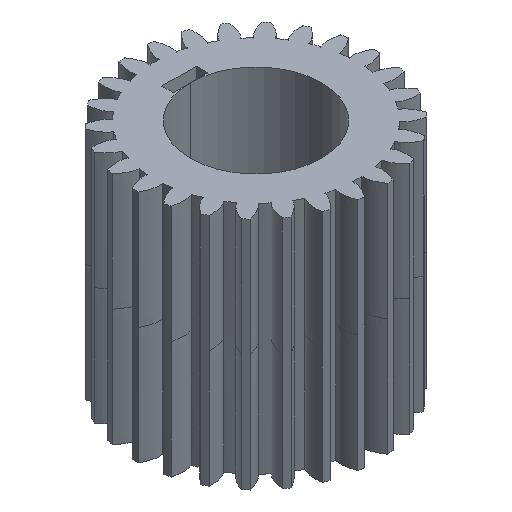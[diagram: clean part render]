
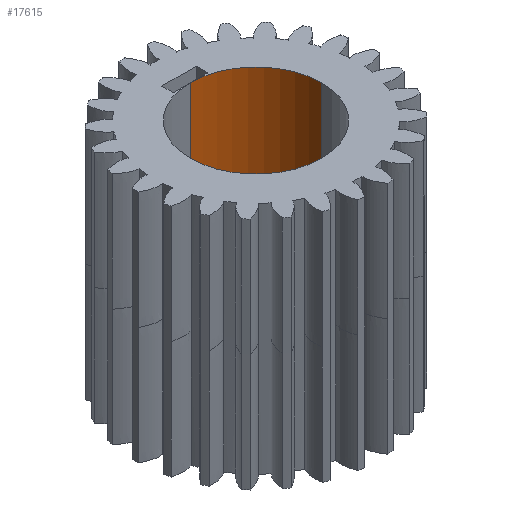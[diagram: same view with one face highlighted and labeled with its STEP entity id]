
A CAD part, isometric view. The second image highlights one B-rep face of the part: STEP entity #17615.
In plain terms, the highlighted cylindrical face has radius 19 mm (diameter 38 mm), a partial arc.
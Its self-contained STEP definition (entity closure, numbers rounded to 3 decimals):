
#102 = PLANE('',#103);
#103 = AXIS2_PLACEMENT_3D('',#104,#105,#106);
#104 = CARTESIAN_POINT('',(0.,0.,-34.)
  );
#105 = DIRECTION('',(0.,0.,1.));
#106 = DIRECTION('',(1.,0.,-0.));
#324 = PLANE('',#325);
#325 = AXIS2_PLACEMENT_3D('',#326,#327,#328);
#326 = CARTESIAN_POINT('',(0.,0.,34.));
#327 = DIRECTION('',(0.,0.,1.));
#328 = DIRECTION('',(1.,0.,-0.));
#5680 = EDGE_CURVE('',#5681,#5683,#5685,.T.);
#5681 = VERTEX_POINT('',#5682);
#5682 = CARTESIAN_POINT('',(19.,0.,-34.));
#5683 = VERTEX_POINT('',#5684);
#5684 = CARTESIAN_POINT('',(0.,19.,-34.));
#5685 = SURFACE_CURVE('',#5686,(#5691,#5698),.PCURVE_S1.);
#5686 = CIRCLE('',#5687,19.);
#5687 = AXIS2_PLACEMENT_3D('',#5688,#5689,#5690);
#5688 = CARTESIAN_POINT('',(0.,0.,-34.));
#5689 = DIRECTION('',(0.,0.,1.));
#5690 = DIRECTION('',(1.,0.,-0.));
#5691 = PCURVE('',#102,#5692);
#5692 = DEFINITIONAL_REPRESENTATION('',(#5693),#5697);
#5693 = CIRCLE('',#5694,19.);
#5694 = AXIS2_PLACEMENT_2D('',#5695,#5696);
#5695 = CARTESIAN_POINT('',(0.,0.));
#5696 = DIRECTION('',(1.,0.));
#5697 = ( GEOMETRIC_REPRESENTATION_CONTEXT(2) 
PARAMETRIC_REPRESENTATION_CONTEXT() REPRESENTATION_CONTEXT('2D SPACE',''
  ) );
#5698 = PCURVE('',#5699,#5704);
#5699 = CYLINDRICAL_SURFACE('',#5700,19.);
#5700 = AXIS2_PLACEMENT_3D('',#5701,#5702,#5703);
#5701 = CARTESIAN_POINT('',(0.,0.,-35.));
#5702 = DIRECTION('',(0.,0.,1.));
#5703 = DIRECTION('',(1.,0.,-0.));
#5704 = DEFINITIONAL_REPRESENTATION('',(#5705),#5709);
#5705 = LINE('',#5706,#5707);
#5706 = CARTESIAN_POINT('',(0.,1.));
#5707 = VECTOR('',#5708,1.);
#5708 = DIRECTION('',(1.,0.));
#5709 = ( GEOMETRIC_REPRESENTATION_CONTEXT(2) 
PARAMETRIC_REPRESENTATION_CONTEXT() REPRESENTATION_CONTEXT('2D SPACE',''
  ) );
#5726 = CYLINDRICAL_SURFACE('',#5727,19.);
#5727 = AXIS2_PLACEMENT_3D('',#5728,#5729,#5730);
#5728 = CARTESIAN_POINT('',(0.,0.,-35.));
#5729 = DIRECTION('',(0.,0.,1.));
#5730 = DIRECTION('',(1.,0.,-0.));
#10769 = EDGE_CURVE('',#10770,#10772,#10774,.T.);
#10770 = VERTEX_POINT('',#10771);
#10771 = CARTESIAN_POINT('',(19.,0.,34.));
#10772 = VERTEX_POINT('',#10773);
#10773 = CARTESIAN_POINT('',(0.,19.,34.));
#10774 = SURFACE_CURVE('',#10775,(#10780,#10787),.PCURVE_S1.);
#10775 = CIRCLE('',#10776,19.);
#10776 = AXIS2_PLACEMENT_3D('',#10777,#10778,#10779);
#10777 = CARTESIAN_POINT('',(0.,0.,34.));
#10778 = DIRECTION('',(0.,0.,1.));
#10779 = DIRECTION('',(1.,0.,-0.));
#10780 = PCURVE('',#324,#10781);
#10781 = DEFINITIONAL_REPRESENTATION('',(#10782),#10786);
#10782 = CIRCLE('',#10783,19.);
#10783 = AXIS2_PLACEMENT_2D('',#10784,#10785);
#10784 = CARTESIAN_POINT('',(0.,0.));
#10785 = DIRECTION('',(1.,0.));
#10786 = ( GEOMETRIC_REPRESENTATION_CONTEXT(2) 
PARAMETRIC_REPRESENTATION_CONTEXT() REPRESENTATION_CONTEXT('2D SPACE',''
  ) );
#10787 = PCURVE('',#5699,#10788);
#10788 = DEFINITIONAL_REPRESENTATION('',(#10789),#10793);
#10789 = LINE('',#10790,#10791);
#10790 = CARTESIAN_POINT('',(0.,69.));
#10791 = VECTOR('',#10792,1.);
#10792 = DIRECTION('',(1.,0.));
#10793 = ( GEOMETRIC_REPRESENTATION_CONTEXT(2) 
PARAMETRIC_REPRESENTATION_CONTEXT() REPRESENTATION_CONTEXT('2D SPACE',''
  ) );
#17615 = ADVANCED_FACE('',(#17616),#5699,.F.);
#17616 = FACE_BOUND('',#17617,.F.);
#17617 = EDGE_LOOP('',(#17618,#17619,#17640,#17641));
#17618 = ORIENTED_EDGE('',*,*,#10769,.F.);
#17619 = ORIENTED_EDGE('',*,*,#17620,.F.);
#17620 = EDGE_CURVE('',#5681,#10770,#17621,.T.);
#17621 = SURFACE_CURVE('',#17622,(#17626,#17633),.PCURVE_S1.);
#17622 = LINE('',#17623,#17624);
#17623 = CARTESIAN_POINT('',(19.,0.,-35.));
#17624 = VECTOR('',#17625,1.);
#17625 = DIRECTION('',(0.,0.,1.));
#17626 = PCURVE('',#5699,#17627);
#17627 = DEFINITIONAL_REPRESENTATION('',(#17628),#17632);
#17628 = LINE('',#17629,#17630);
#17629 = CARTESIAN_POINT('',(0.,-0.));
#17630 = VECTOR('',#17631,1.);
#17631 = DIRECTION('',(0.,1.));
#17632 = ( GEOMETRIC_REPRESENTATION_CONTEXT(2) 
PARAMETRIC_REPRESENTATION_CONTEXT() REPRESENTATION_CONTEXT('2D SPACE',''
  ) );
#17633 = PCURVE('',#5726,#17634);
#17634 = DEFINITIONAL_REPRESENTATION('',(#17635),#17639);
#17635 = LINE('',#17636,#17637);
#17636 = CARTESIAN_POINT('',(6.283,-0.));
#17637 = VECTOR('',#17638,1.);
#17638 = DIRECTION('',(0.,1.));
#17639 = ( GEOMETRIC_REPRESENTATION_CONTEXT(2) 
PARAMETRIC_REPRESENTATION_CONTEXT() REPRESENTATION_CONTEXT('2D SPACE',''
  ) );
#17640 = ORIENTED_EDGE('',*,*,#5680,.T.);
#17641 = ORIENTED_EDGE('',*,*,#17642,.T.);
#17642 = EDGE_CURVE('',#5683,#10772,#17643,.T.);
#17643 = SURFACE_CURVE('',#17644,(#17648,#17654),.PCURVE_S1.);
#17644 = LINE('',#17645,#17646);
#17645 = CARTESIAN_POINT('',(0.,19.,-35.));
#17646 = VECTOR('',#17647,1.);
#17647 = DIRECTION('',(0.,0.,1.));
#17648 = PCURVE('',#5699,#17649);
#17649 = DEFINITIONAL_REPRESENTATION('',(#17650),#17653);
#17650 = B_SPLINE_CURVE_WITH_KNOTS('',1,(#17651,#17652),.UNSPECIFIED.,
  .F.,.F.,(2,2),(1.,69.),.PIECEWISE_BEZIER_KNOTS.);
#17651 = CARTESIAN_POINT('',(1.571,1.));
#17652 = CARTESIAN_POINT('',(1.571,69.));
#17653 = ( GEOMETRIC_REPRESENTATION_CONTEXT(2) 
PARAMETRIC_REPRESENTATION_CONTEXT() REPRESENTATION_CONTEXT('2D SPACE',''
  ) );
#17654 = PCURVE('',#5726,#17655);
#17655 = DEFINITIONAL_REPRESENTATION('',(#17656),#17659);
#17656 = B_SPLINE_CURVE_WITH_KNOTS('',1,(#17657,#17658),.UNSPECIFIED.,
  .F.,.F.,(2,2),(1.,69.),.PIECEWISE_BEZIER_KNOTS.);
#17657 = CARTESIAN_POINT('',(1.571,1.));
#17658 = CARTESIAN_POINT('',(1.571,69.));
#17659 = ( GEOMETRIC_REPRESENTATION_CONTEXT(2) 
PARAMETRIC_REPRESENTATION_CONTEXT() REPRESENTATION_CONTEXT('2D SPACE',''
  ) );
